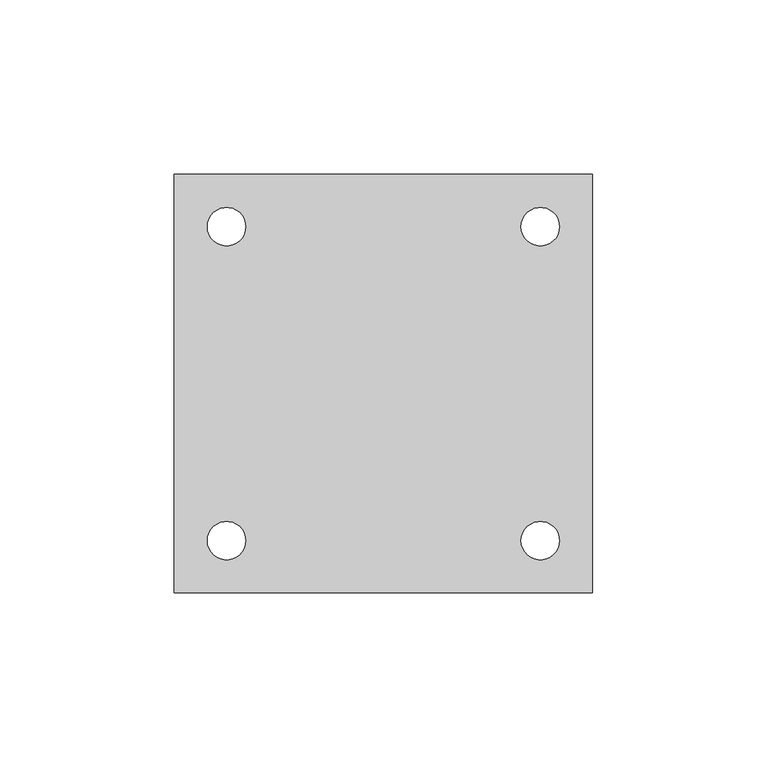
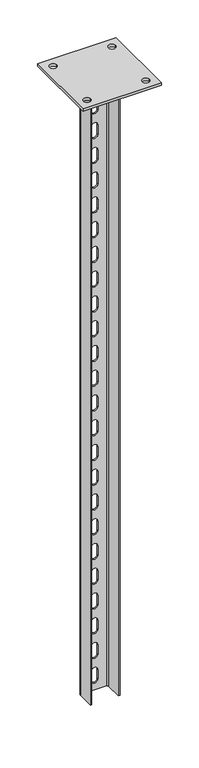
"""IFC4 building model written with IfcOpenShell, lengths in millimetres: proxy geometry, КМ Профиль_Стойка потолочная усиленная PSTU : PSTU1000."""

from ifc_helpers import new_model, si_unit, point, frame, frame_2d, origin, place, context, project, spatial, polyline, circle_curve, trimmed, segment, composite_curve, outline, extrude, source, transform, mapped, element, save
from ifc_brep_helpers import plane_surface, cylinder_surface, revolved_surface, advanced_brep


def generic_models_558c0930(model_context):
    return source(origin(), model_context, "Body", "SolidModel", [
        advanced_brep(
        [(22.5, -15.0, -4.0), (22.5, 11.0, -4.0), (18.5, 15.0, -4.0), (-18.5, 15.0, -4.0), (-22.5, 11.0, -4.0), (-22.5, -15.0, -4.0), (-20.5, -15.0, -4.0), (-20.5, 11.0, -4.0), (-18.5, 13.0, -4.0), (18.5, 13.0, -4.0), (20.5, 11.0, -4.0), (20.5, -15.0, -4.0), (22.5, 11.0, -1004.0), (22.5, -15.0, -1004.0), (20.5, -15.0, -1004.0), (20.5, 11.0, -1004.0), (18.5, 13.0, -1004.0), (-18.5, 13.0, -1004.0), (-20.5, 11.0, -1004.0), (-20.5, -15.0, -1004.0), (-22.5, -15.0, -1004.0), (-22.5, 11.0, -1004.0), (-18.5, 15.0, -1004.0), (18.5, 15.0, -1004.0), (-5.0, 15.0, -53.0), (-5.0, 15.0, -68.0), (5.0, 15.0, -68.0), (5.0, 15.0, -53.0), (-5.0, 15.0, -93.0), (-5.0, 15.0, -108.0), (5.0, 15.0, -108.0), (5.0, 15.0, -93.0), (-5.0, 15.0, -133.0), (-5.0, 15.0, -148.0), (5.0, 15.0, -148.0), (5.0, 15.0, -133.0), (-5.0, 15.0, -173.0), (-5.0, 15.0, -188.0), (5.0, 15.0, -188.0), (5.0, 15.0, -173.0), (-5.0, 15.0, -213.0), (-5.0, 15.0, -228.0), (5.0, 15.0, -228.0), (5.0, 15.0, -213.0), (-5.0, 15.0, -253.0), (-5.0, 15.0, -268.0), (5.0, 15.0, -268.0), (5.0, 15.0, -253.0), (-5.0, 15.0, -293.0), (-5.0, 15.0, -308.0), (5.0, 15.0, -308.0), (5.0, 15.0, -293.0), (-5.0, 15.0, -333.0), (-5.0, 15.0, -348.0), (5.0, 15.0, -348.0), (5.0, 15.0, -333.0), (-5.0, 15.0, -373.0), (-5.0, 15.0, -388.0), (5.0, 15.0, -388.0), (5.0, 15.0, -373.0), (-5.0, 15.0, -413.0), (-5.0, 15.0, -428.0), (5.0, 15.0, -428.0), (5.0, 15.0, -413.0), (-5.0, 15.0, -453.0), (-5.0, 15.0, -468.0), (5.0, 15.0, -468.0), (5.0, 15.0, -453.0), (-5.0, 15.0, -493.0), (-5.0, 15.0, -508.0), (5.0, 15.0, -508.0), (5.0, 15.0, -493.0), (-5.0, 15.0, -533.0), (-5.0, 15.0, -548.0), (5.0, 15.0, -548.0), (5.0, 15.0, -533.0), (-5.0, 15.0, -573.0), (-5.0, 15.0, -588.0), (5.0, 15.0, -588.0), (5.0, 15.0, -573.0), (-5.0, 15.0, -613.0), (-5.0, 15.0, -628.0), (5.0, 15.0, -628.0), (5.0, 15.0, -613.0), (-5.0, 15.0, -653.0), (-5.0, 15.0, -668.0), (5.0, 15.0, -668.0), (5.0, 15.0, -653.0), (-5.0, 15.0, -693.0), (-5.0, 15.0, -708.0), (5.0, 15.0, -708.0), (5.0, 15.0, -693.0), (-5.0, 15.0, -733.0), (-5.0, 15.0, -748.0), (5.0, 15.0, -748.0), (5.0, 15.0, -733.0), (-5.0, 15.0, -773.0), (-5.0, 15.0, -788.0), (5.0, 15.0, -788.0), (5.0, 15.0, -773.0), (-5.0, 15.0, -813.0), (-5.0, 15.0, -828.0), (5.0, 15.0, -828.0), (5.0, 15.0, -813.0), (-5.0, 15.0, -853.0), (-5.0, 15.0, -868.0), (5.0, 15.0, -868.0), (5.0, 15.0, -853.0), (-5.0, 15.0, -893.0), (-5.0, 15.0, -908.0), (5.0, 15.0, -908.0), (5.0, 15.0, -893.0), (-5.0, 15.0, -933.0), (-5.0, 15.0, -948.0), (5.0, 15.0, -948.0), (5.0, 15.0, -933.0), (-5.0, 15.0, -973.0), (-5.0, 15.0, -988.0), (5.0, 15.0, -988.0), (5.0, 15.0, -973.0), (-5.0, 15.0, -13.0), (-5.0, 15.0, -28.0), (5.0, 15.0, -28.0), (5.0, 15.0, -13.0), (-5.0, 13.0, -68.0), (-5.0, 13.0, -53.0), (5.0, 13.0, -53.0), (5.0, 13.0, -68.0), (-5.0, 13.0, -108.0), (-5.0, 13.0, -93.0), (5.0, 13.0, -93.0), (5.0, 13.0, -108.0), (-5.0, 13.0, -148.0), (-5.0, 13.0, -133.0), (5.0, 13.0, -133.0), (5.0, 13.0, -148.0), (-5.0, 13.0, -188.0), (-5.0, 13.0, -173.0), (5.0, 13.0, -173.0), (5.0, 13.0, -188.0), (-5.0, 13.0, -228.0), (-5.0, 13.0, -213.0), (5.0, 13.0, -213.0), (5.0, 13.0, -228.0), (-5.0, 13.0, -268.0), (-5.0, 13.0, -253.0), (5.0, 13.0, -253.0), (5.0, 13.0, -268.0), (-5.0, 13.0, -308.0), (-5.0, 13.0, -293.0), (5.0, 13.0, -293.0), (5.0, 13.0, -308.0), (-5.0, 13.0, -348.0), (-5.0, 13.0, -333.0), (5.0, 13.0, -333.0), (5.0, 13.0, -348.0), (-5.0, 13.0, -388.0), (-5.0, 13.0, -373.0), (5.0, 13.0, -373.0), (5.0, 13.0, -388.0), (-5.0, 13.0, -428.0), (-5.0, 13.0, -413.0), (5.0, 13.0, -413.0), (5.0, 13.0, -428.0), (-5.0, 13.0, -468.0), (-5.0, 13.0, -453.0), (5.0, 13.0, -453.0), (5.0, 13.0, -468.0), (-5.0, 13.0, -508.0), (-5.0, 13.0, -493.0), (5.0, 13.0, -493.0), (5.0, 13.0, -508.0), (-5.0, 13.0, -548.0), (-5.0, 13.0, -533.0), (5.0, 13.0, -533.0), (5.0, 13.0, -548.0), (-5.0, 13.0, -588.0), (-5.0, 13.0, -573.0), (5.0, 13.0, -573.0), (5.0, 13.0, -588.0), (-5.0, 13.0, -628.0), (-5.0, 13.0, -613.0), (5.0, 13.0, -613.0), (5.0, 13.0, -628.0), (-5.0, 13.0, -668.0), (-5.0, 13.0, -653.0), (5.0, 13.0, -653.0), (5.0, 13.0, -668.0), (-5.0, 13.0, -708.0), (-5.0, 13.0, -693.0), (5.0, 13.0, -693.0), (5.0, 13.0, -708.0), (-5.0, 13.0, -748.0), (-5.0, 13.0, -733.0), (5.0, 13.0, -733.0), (5.0, 13.0, -748.0), (-5.0, 13.0, -788.0), (-5.0, 13.0, -773.0), (5.0, 13.0, -773.0), (5.0, 13.0, -788.0), (-5.0, 13.0, -828.0), (-5.0, 13.0, -813.0), (5.0, 13.0, -813.0), (5.0, 13.0, -828.0), (-5.0, 13.0, -868.0), (-5.0, 13.0, -853.0), (5.0, 13.0, -853.0), (5.0, 13.0, -868.0), (-5.0, 13.0, -908.0), (-5.0, 13.0, -893.0), (5.0, 13.0, -893.0), (5.0, 13.0, -908.0), (-5.0, 13.0, -948.0), (-5.0, 13.0, -933.0), (5.0, 13.0, -933.0), (5.0, 13.0, -948.0), (-5.0, 13.0, -988.0), (-5.0, 13.0, -973.0), (5.0, 13.0, -973.0), (5.0, 13.0, -988.0), (-5.0, 13.0, -28.0), (-5.0, 13.0, -13.0), (5.0, 13.0, -13.0), (5.0, 13.0, -28.0)],
        [
            (0, 1),
            (1, 2, circle_curve(frame((18.5, 11.0, -4.0), z_axis=(0.0, 0.0, 1.0), x_axis=(1.0, 0.0, 0.0)), 4.0)),
            (2, 3),
            (3, 4, circle_curve(frame((-18.5, 11.0, -4.0), z_axis=(0.0, 0.0, 1.0), x_axis=(1.0, 0.0, 0.0)), 4.0)),
            (4, 5),
            (5, 6),
            (6, 7),
            (7, 8, circle_curve(frame((-18.5, 11.0, -4.0), z_axis=(0.0, 0.0, -1.0), x_axis=(1.0, 0.0, 0.0)), 2.0)),
            (8, 9),
            (9, 10, circle_curve(frame((18.5, 11.0, -4.0), z_axis=(0.0, 0.0, -1.0), x_axis=(1.0, 0.0, 0.0)), 2.0)),
            (10, 11),
            (11, 0),
            (12, 13),
            (13, 14),
            (14, 15),
            (15, 16, circle_curve(frame((18.5, 11.0, -1004.0), z_axis=(0.0, 0.0, 1.0), x_axis=(1.0, 0.0, 0.0)), 2.0)),
            (16, 17),
            (17, 18, circle_curve(frame((-18.5, 11.0, -1004.0), z_axis=(0.0, 0.0, 1.0), x_axis=(1.0, 0.0, 0.0)), 2.0)),
            (18, 19),
            (19, 20),
            (20, 21),
            (21, 22, circle_curve(frame((-18.5, 11.0, -1004.0), z_axis=(0.0, 0.0, -1.0), x_axis=(1.0, 0.0, 0.0)), 4.0)),
            (22, 23),
            (23, 12, circle_curve(frame((18.5, 11.0, -1004.0), z_axis=(0.0, 0.0, -1.0), x_axis=(1.0, 0.0, 0.0)), 4.0)),
            (0, 13),
            (12, 1),
            (23, 2),
            (22, 3),
            (24, 25),
            (25, 26, circle_curve(frame((0.0, 15.0, -68.0), z_axis=(0.0, -1.0, 0.0), x_axis=(0.0, 0.0, -1.0)), 5.0)),
            (26, 27),
            (27, 24, circle_curve(frame((0.0, 15.0, -53.0), z_axis=(0.0, -1.0, 0.0), x_axis=(0.0, 0.0, -1.0)), 5.0)),
            (28, 29),
            (29, 30, circle_curve(frame((0.0, 15.0, -108.0), z_axis=(0.0, -1.0, 0.0), x_axis=(0.0, 0.0, -1.0)), 5.0)),
            (30, 31),
            (31, 28, circle_curve(frame((0.0, 15.0, -93.0), z_axis=(0.0, -1.0, 0.0), x_axis=(0.0, 0.0, -1.0)), 5.0)),
            (32, 33),
            (33, 34, circle_curve(frame((0.0, 15.0, -148.0), z_axis=(0.0, -1.0, 0.0), x_axis=(0.0, 0.0, -1.0)), 5.0)),
            (34, 35),
            (35, 32, circle_curve(frame((0.0, 15.0, -133.0), z_axis=(0.0, -1.0, 0.0), x_axis=(0.0, 0.0, -1.0)), 5.0)),
            (36, 37),
            (37, 38, circle_curve(frame((0.0, 15.0, -188.0), z_axis=(0.0, -1.0, 0.0), x_axis=(0.0, 0.0, -1.0)), 5.0)),
            (38, 39),
            (39, 36, circle_curve(frame((0.0, 15.0, -173.0), z_axis=(0.0, -1.0, 0.0), x_axis=(0.0, 0.0, -1.0)), 5.0)),
            (40, 41),
            (41, 42, circle_curve(frame((0.0, 15.0, -228.0), z_axis=(0.0, -1.0, 0.0), x_axis=(0.0, 0.0, -1.0)), 5.0)),
            (42, 43),
            (43, 40, circle_curve(frame((0.0, 15.0, -213.0), z_axis=(0.0, -1.0, 0.0), x_axis=(0.0, 0.0, -1.0)), 5.0)),
            (44, 45),
            (45, 46, circle_curve(frame((0.0, 15.0, -268.0), z_axis=(0.0, -1.0, 0.0), x_axis=(0.0, 0.0, -1.0)), 5.0)),
            (46, 47),
            (47, 44, circle_curve(frame((0.0, 15.0, -253.0), z_axis=(0.0, -1.0, 0.0), x_axis=(0.0, 0.0, -1.0)), 5.0)),
            (48, 49),
            (49, 50, circle_curve(frame((0.0, 15.0, -308.0), z_axis=(0.0, -1.0, 0.0), x_axis=(0.0, 0.0, -1.0)), 5.0)),
            (50, 51),
            (51, 48, circle_curve(frame((0.0, 15.0, -293.0), z_axis=(0.0, -1.0, 0.0), x_axis=(0.0, 0.0, -1.0)), 5.0)),
            (52, 53),
            (53, 54, circle_curve(frame((0.0, 15.0, -348.0), z_axis=(0.0, -1.0, 0.0), x_axis=(0.0, 0.0, -1.0)), 5.0)),
            (54, 55),
            (55, 52, circle_curve(frame((0.0, 15.0, -333.0), z_axis=(0.0, -1.0, 0.0), x_axis=(0.0, 0.0, -1.0)), 5.0)),
            (56, 57),
            (57, 58, circle_curve(frame((0.0, 15.0, -388.0), z_axis=(0.0, -1.0, 0.0), x_axis=(0.0, 0.0, -1.0)), 5.0)),
            (58, 59),
            (59, 56, circle_curve(frame((0.0, 15.0, -373.0), z_axis=(0.0, -1.0, 0.0), x_axis=(0.0, 0.0, -1.0)), 5.0)),
            (60, 61),
            (61, 62, circle_curve(frame((0.0, 15.0, -428.0), z_axis=(0.0, -1.0, 0.0), x_axis=(0.0, 0.0, -1.0)), 5.0)),
            (62, 63),
            (63, 60, circle_curve(frame((0.0, 15.0, -413.0), z_axis=(0.0, -1.0, 0.0), x_axis=(0.0, 0.0, -1.0)), 5.0)),
            (64, 65),
            (65, 66, circle_curve(frame((0.0, 15.0, -468.0), z_axis=(0.0, -1.0, 0.0), x_axis=(0.0, 0.0, -1.0)), 5.0)),
            (66, 67),
            (67, 64, circle_curve(frame((0.0, 15.0, -453.0), z_axis=(0.0, -1.0, 0.0), x_axis=(0.0, 0.0, -1.0)), 5.0)),
            (68, 69),
            (69, 70, circle_curve(frame((0.0, 15.0, -508.0), z_axis=(0.0, -1.0, 0.0), x_axis=(0.0, 0.0, -1.0)), 5.0)),
            (70, 71),
            (71, 68, circle_curve(frame((0.0, 15.0, -493.0), z_axis=(0.0, -1.0, 0.0), x_axis=(0.0, 0.0, -1.0)), 5.0)),
            (72, 73),
            (73, 74, circle_curve(frame((0.0, 15.0, -548.0), z_axis=(0.0, -1.0, 0.0), x_axis=(0.0, 0.0, -1.0)), 5.0)),
            (74, 75),
            (75, 72, circle_curve(frame((0.0, 15.0, -533.0), z_axis=(0.0, -1.0, 0.0), x_axis=(0.0, 0.0, -1.0)), 5.0)),
            (76, 77),
            (77, 78, circle_curve(frame((0.0, 15.0, -588.0), z_axis=(0.0, -1.0, 0.0), x_axis=(0.0, 0.0, -1.0)), 5.0)),
            (78, 79),
            (79, 76, circle_curve(frame((0.0, 15.0, -573.0), z_axis=(0.0, -1.0, 0.0), x_axis=(0.0, 0.0, -1.0)), 5.0)),
            (80, 81),
            (81, 82, circle_curve(frame((0.0, 15.0, -628.0), z_axis=(0.0, -1.0, 0.0), x_axis=(0.0, 0.0, -1.0)), 5.0)),
            (82, 83),
            (83, 80, circle_curve(frame((0.0, 15.0, -613.0), z_axis=(0.0, -1.0, 0.0), x_axis=(0.0, 0.0, -1.0)), 5.0)),
            (84, 85),
            (85, 86, circle_curve(frame((0.0, 15.0, -668.0), z_axis=(0.0, -1.0, 0.0), x_axis=(0.0, 0.0, -1.0)), 5.0)),
            (86, 87),
            (87, 84, circle_curve(frame((0.0, 15.0, -653.0), z_axis=(0.0, -1.0, 0.0), x_axis=(0.0, 0.0, -1.0)), 5.0)),
            (88, 89),
            (89, 90, circle_curve(frame((0.0, 15.0, -708.0), z_axis=(0.0, -1.0, 0.0), x_axis=(0.0, 0.0, -1.0)), 5.0)),
            (90, 91),
            (91, 88, circle_curve(frame((0.0, 15.0, -693.0), z_axis=(0.0, -1.0, 0.0), x_axis=(0.0, 0.0, -1.0)), 5.0)),
            (92, 93),
            (93, 94, circle_curve(frame((0.0, 15.0, -748.0), z_axis=(0.0, -1.0, 0.0), x_axis=(0.0, 0.0, -1.0)), 5.0)),
            (94, 95),
            (95, 92, circle_curve(frame((0.0, 15.0, -733.0), z_axis=(0.0, -1.0, 0.0), x_axis=(0.0, 0.0, -1.0)), 5.0)),
            (96, 97),
            (97, 98, circle_curve(frame((0.0, 15.0, -788.0), z_axis=(0.0, -1.0, 0.0), x_axis=(0.0, 0.0, -1.0)), 5.0)),
            (98, 99),
            (99, 96, circle_curve(frame((0.0, 15.0, -773.0), z_axis=(0.0, -1.0, 0.0), x_axis=(0.0, 0.0, -1.0)), 5.0)),
            (100, 101),
            (101, 102, circle_curve(frame((0.0, 15.0, -828.0), z_axis=(0.0, -1.0, 0.0), x_axis=(0.0, 0.0, -1.0)), 5.0)),
            (102, 103),
            (103, 100, circle_curve(frame((0.0, 15.0, -813.0), z_axis=(0.0, -1.0, 0.0), x_axis=(0.0, 0.0, -1.0)), 5.0)),
            (104, 105),
            (105, 106, circle_curve(frame((0.0, 15.0, -868.0), z_axis=(0.0, -1.0, 0.0), x_axis=(0.0, 0.0, -1.0)), 5.0)),
            (106, 107),
            (107, 104, circle_curve(frame((0.0, 15.0, -853.0), z_axis=(0.0, -1.0, 0.0), x_axis=(0.0, 0.0, -1.0)), 5.0)),
            (108, 109),
            (109, 110, circle_curve(frame((0.0, 15.0, -908.0), z_axis=(0.0, -1.0, 0.0), x_axis=(0.0, 0.0, -1.0)), 5.0)),
            (110, 111),
            (111, 108, circle_curve(frame((0.0, 15.0, -893.0), z_axis=(0.0, -1.0, 0.0), x_axis=(0.0, 0.0, -1.0)), 5.0)),
            (112, 113),
            (113, 114, circle_curve(frame((0.0, 15.0, -948.0), z_axis=(0.0, -1.0, 0.0), x_axis=(0.0, 0.0, -1.0)), 5.0)),
            (114, 115),
            (115, 112, circle_curve(frame((0.0, 15.0, -933.0), z_axis=(0.0, -1.0, 0.0), x_axis=(0.0, 0.0, -1.0)), 5.0)),
            (116, 117),
            (117, 118, circle_curve(frame((0.0, 15.0, -988.0), z_axis=(0.0, -1.0, 0.0), x_axis=(0.0, 0.0, -1.0)), 5.0)),
            (118, 119),
            (119, 116, circle_curve(frame((0.0, 15.0, -973.0), z_axis=(0.0, -1.0, 0.0), x_axis=(0.0, 0.0, -1.0)), 5.0)),
            (120, 121),
            (121, 122, circle_curve(frame((0.0, 15.0, -28.0), z_axis=(0.0, -1.0, 0.0), x_axis=(0.0, 0.0, -1.0)), 5.0)),
            (122, 123),
            (123, 120, circle_curve(frame((0.0, 15.0, -13.0), z_axis=(0.0, -1.0, 0.0), x_axis=(0.0, 0.0, -1.0)), 5.0)),
            (21, 4),
            (20, 5),
            (19, 6),
            (18, 7),
            (17, 8),
            (16, 9),
            (124, 125),
            (125, 126, circle_curve(frame((0.0, 13.0, -53.0), z_axis=(0.0, 1.0, 0.0), x_axis=(0.0, 0.0, -1.0)), 5.0)),
            (126, 127),
            (127, 124, circle_curve(frame((0.0, 13.0, -68.0), z_axis=(0.0, 1.0, 0.0), x_axis=(0.0, 0.0, -1.0)), 5.0)),
            (128, 129),
            (129, 130, circle_curve(frame((0.0, 13.0, -93.0), z_axis=(0.0, 1.0, 0.0), x_axis=(0.0, 0.0, -1.0)), 5.0)),
            (130, 131),
            (131, 128, circle_curve(frame((0.0, 13.0, -108.0), z_axis=(0.0, 1.0, 0.0), x_axis=(0.0, 0.0, -1.0)), 5.0)),
            (132, 133),
            (133, 134, circle_curve(frame((0.0, 13.0, -133.0), z_axis=(0.0, 1.0, 0.0), x_axis=(0.0, 0.0, -1.0)), 5.0)),
            (134, 135),
            (135, 132, circle_curve(frame((0.0, 13.0, -148.0), z_axis=(0.0, 1.0, 0.0), x_axis=(0.0, 0.0, -1.0)), 5.0)),
            (136, 137),
            (137, 138, circle_curve(frame((0.0, 13.0, -173.0), z_axis=(0.0, 1.0, 0.0), x_axis=(0.0, 0.0, -1.0)), 5.0)),
            (138, 139),
            (139, 136, circle_curve(frame((0.0, 13.0, -188.0), z_axis=(0.0, 1.0, 0.0), x_axis=(0.0, 0.0, -1.0)), 5.0)),
            (140, 141),
            (141, 142, circle_curve(frame((0.0, 13.0, -213.0), z_axis=(0.0, 1.0, 0.0), x_axis=(0.0, 0.0, -1.0)), 5.0)),
            (142, 143),
            (143, 140, circle_curve(frame((0.0, 13.0, -228.0), z_axis=(0.0, 1.0, 0.0), x_axis=(0.0, 0.0, -1.0)), 5.0)),
            (144, 145),
            (145, 146, circle_curve(frame((0.0, 13.0, -253.0), z_axis=(0.0, 1.0, 0.0), x_axis=(0.0, 0.0, -1.0)), 5.0)),
            (146, 147),
            (147, 144, circle_curve(frame((0.0, 13.0, -268.0), z_axis=(0.0, 1.0, 0.0), x_axis=(0.0, 0.0, -1.0)), 5.0)),
            (148, 149),
            (149, 150, circle_curve(frame((0.0, 13.0, -293.0), z_axis=(0.0, 1.0, 0.0), x_axis=(0.0, 0.0, -1.0)), 5.0)),
            (150, 151),
            (151, 148, circle_curve(frame((0.0, 13.0, -308.0), z_axis=(0.0, 1.0, 0.0), x_axis=(0.0, 0.0, -1.0)), 5.0)),
            (152, 153),
            (153, 154, circle_curve(frame((0.0, 13.0, -333.0), z_axis=(0.0, 1.0, 0.0), x_axis=(0.0, 0.0, -1.0)), 5.0)),
            (154, 155),
            (155, 152, circle_curve(frame((0.0, 13.0, -348.0), z_axis=(0.0, 1.0, 0.0), x_axis=(0.0, 0.0, -1.0)), 5.0)),
            (156, 157),
            (157, 158, circle_curve(frame((0.0, 13.0, -373.0), z_axis=(0.0, 1.0, 0.0), x_axis=(0.0, 0.0, -1.0)), 5.0)),
            (158, 159),
            (159, 156, circle_curve(frame((0.0, 13.0, -388.0), z_axis=(0.0, 1.0, 0.0), x_axis=(0.0, 0.0, -1.0)), 5.0)),
            (160, 161),
            (161, 162, circle_curve(frame((0.0, 13.0, -413.0), z_axis=(0.0, 1.0, 0.0), x_axis=(0.0, 0.0, -1.0)), 5.0)),
            (162, 163),
            (163, 160, circle_curve(frame((0.0, 13.0, -428.0), z_axis=(0.0, 1.0, 0.0), x_axis=(0.0, 0.0, -1.0)), 5.0)),
            (164, 165),
            (165, 166, circle_curve(frame((0.0, 13.0, -453.0), z_axis=(0.0, 1.0, 0.0), x_axis=(0.0, 0.0, -1.0)), 5.0)),
            (166, 167),
            (167, 164, circle_curve(frame((0.0, 13.0, -468.0), z_axis=(0.0, 1.0, 0.0), x_axis=(0.0, 0.0, -1.0)), 5.0)),
            (168, 169),
            (169, 170, circle_curve(frame((0.0, 13.0, -493.0), z_axis=(0.0, 1.0, 0.0), x_axis=(0.0, 0.0, -1.0)), 5.0)),
            (170, 171),
            (171, 168, circle_curve(frame((0.0, 13.0, -508.0), z_axis=(0.0, 1.0, 0.0), x_axis=(0.0, 0.0, -1.0)), 5.0)),
            (172, 173),
            (173, 174, circle_curve(frame((0.0, 13.0, -533.0), z_axis=(0.0, 1.0, 0.0), x_axis=(0.0, 0.0, -1.0)), 5.0)),
            (174, 175),
            (175, 172, circle_curve(frame((0.0, 13.0, -548.0), z_axis=(0.0, 1.0, 0.0), x_axis=(0.0, 0.0, -1.0)), 5.0)),
            (176, 177),
            (177, 178, circle_curve(frame((0.0, 13.0, -573.0), z_axis=(0.0, 1.0, 0.0), x_axis=(0.0, 0.0, -1.0)), 5.0)),
            (178, 179),
            (179, 176, circle_curve(frame((0.0, 13.0, -588.0), z_axis=(0.0, 1.0, 0.0), x_axis=(0.0, 0.0, -1.0)), 5.0)),
            (180, 181),
            (181, 182, circle_curve(frame((0.0, 13.0, -613.0), z_axis=(0.0, 1.0, 0.0), x_axis=(0.0, 0.0, -1.0)), 5.0)),
            (182, 183),
            (183, 180, circle_curve(frame((0.0, 13.0, -628.0), z_axis=(0.0, 1.0, 0.0), x_axis=(0.0, 0.0, -1.0)), 5.0)),
            (184, 185),
            (185, 186, circle_curve(frame((0.0, 13.0, -653.0), z_axis=(0.0, 1.0, 0.0), x_axis=(0.0, 0.0, -1.0)), 5.0)),
            (186, 187),
            (187, 184, circle_curve(frame((0.0, 13.0, -668.0), z_axis=(0.0, 1.0, 0.0), x_axis=(0.0, 0.0, -1.0)), 5.0)),
            (188, 189),
            (189, 190, circle_curve(frame((0.0, 13.0, -693.0), z_axis=(0.0, 1.0, 0.0), x_axis=(0.0, 0.0, -1.0)), 5.0)),
            (190, 191),
            (191, 188, circle_curve(frame((0.0, 13.0, -708.0), z_axis=(0.0, 1.0, 0.0), x_axis=(0.0, 0.0, -1.0)), 5.0)),
            (192, 193),
            (193, 194, circle_curve(frame((0.0, 13.0, -733.0), z_axis=(0.0, 1.0, 0.0), x_axis=(0.0, 0.0, -1.0)), 5.0)),
            (194, 195),
            (195, 192, circle_curve(frame((0.0, 13.0, -748.0), z_axis=(0.0, 1.0, 0.0), x_axis=(0.0, 0.0, -1.0)), 5.0)),
            (196, 197),
            (197, 198, circle_curve(frame((0.0, 13.0, -773.0), z_axis=(0.0, 1.0, 0.0), x_axis=(0.0, 0.0, -1.0)), 5.0)),
            (198, 199),
            (199, 196, circle_curve(frame((0.0, 13.0, -788.0), z_axis=(0.0, 1.0, 0.0), x_axis=(0.0, 0.0, -1.0)), 5.0)),
            (200, 201),
            (201, 202, circle_curve(frame((0.0, 13.0, -813.0), z_axis=(0.0, 1.0, 0.0), x_axis=(0.0, 0.0, -1.0)), 5.0)),
            (202, 203),
            (203, 200, circle_curve(frame((0.0, 13.0, -828.0), z_axis=(0.0, 1.0, 0.0), x_axis=(0.0, 0.0, -1.0)), 5.0)),
            (204, 205),
            (205, 206, circle_curve(frame((0.0, 13.0, -853.0), z_axis=(0.0, 1.0, 0.0), x_axis=(0.0, 0.0, -1.0)), 5.0)),
            (206, 207),
            (207, 204, circle_curve(frame((0.0, 13.0, -868.0), z_axis=(0.0, 1.0, 0.0), x_axis=(0.0, 0.0, -1.0)), 5.0)),
            (208, 209),
            (209, 210, circle_curve(frame((0.0, 13.0, -893.0), z_axis=(0.0, 1.0, 0.0), x_axis=(0.0, 0.0, -1.0)), 5.0)),
            (210, 211),
            (211, 208, circle_curve(frame((0.0, 13.0, -908.0), z_axis=(0.0, 1.0, 0.0), x_axis=(0.0, 0.0, -1.0)), 5.0)),
            (212, 213),
            (213, 214, circle_curve(frame((0.0, 13.0, -933.0), z_axis=(0.0, 1.0, 0.0), x_axis=(0.0, 0.0, -1.0)), 5.0)),
            (214, 215),
            (215, 212, circle_curve(frame((0.0, 13.0, -948.0), z_axis=(0.0, 1.0, 0.0), x_axis=(0.0, 0.0, -1.0)), 5.0)),
            (216, 217),
            (217, 218, circle_curve(frame((0.0, 13.0, -973.0), z_axis=(0.0, 1.0, 0.0), x_axis=(0.0, 0.0, -1.0)), 5.0)),
            (218, 219),
            (219, 216, circle_curve(frame((0.0, 13.0, -988.0), z_axis=(0.0, 1.0, 0.0), x_axis=(0.0, 0.0, -1.0)), 5.0)),
            (220, 221),
            (221, 222, circle_curve(frame((0.0, 13.0, -13.0), z_axis=(0.0, 1.0, 0.0), x_axis=(0.0, 0.0, -1.0)), 5.0)),
            (222, 223),
            (223, 220, circle_curve(frame((0.0, 13.0, -28.0), z_axis=(0.0, 1.0, 0.0), x_axis=(0.0, 0.0, -1.0)), 5.0)),
            (15, 10),
            (14, 11),
            (24, 125),
            (124, 25),
            (27, 126),
            (26, 127),
            (28, 129),
            (128, 29),
            (31, 130),
            (30, 131),
            (32, 133),
            (132, 33),
            (35, 134),
            (34, 135),
            (36, 137),
            (136, 37),
            (39, 138),
            (38, 139),
            (40, 141),
            (140, 41),
            (43, 142),
            (42, 143),
            (44, 145),
            (144, 45),
            (47, 146),
            (46, 147),
            (48, 149),
            (148, 49),
            (51, 150),
            (50, 151),
            (52, 153),
            (152, 53),
            (55, 154),
            (54, 155),
            (56, 157),
            (156, 57),
            (59, 158),
            (58, 159),
            (60, 161),
            (160, 61),
            (63, 162),
            (62, 163),
            (64, 165),
            (164, 65),
            (67, 166),
            (66, 167),
            (68, 169),
            (168, 69),
            (71, 170),
            (70, 171),
            (72, 173),
            (172, 73),
            (75, 174),
            (74, 175),
            (76, 177),
            (176, 77),
            (79, 178),
            (78, 179),
            (80, 181),
            (180, 81),
            (83, 182),
            (82, 183),
            (84, 185),
            (184, 85),
            (87, 186),
            (86, 187),
            (88, 189),
            (188, 89),
            (91, 190),
            (90, 191),
            (92, 193),
            (192, 93),
            (95, 194),
            (94, 195),
            (96, 197),
            (196, 97),
            (99, 198),
            (98, 199),
            (100, 201),
            (200, 101),
            (103, 202),
            (102, 203),
            (104, 205),
            (204, 105),
            (107, 206),
            (106, 207),
            (108, 209),
            (208, 109),
            (111, 210),
            (110, 211),
            (112, 213),
            (212, 113),
            (115, 214),
            (114, 215),
            (116, 217),
            (216, 117),
            (119, 218),
            (118, 219),
            (120, 221),
            (220, 121),
            (123, 222),
            (122, 223),
        ],
        [
            plane_surface(frame((22.5, 11.0, -4.0), z_axis=(0.0, 0.0, 1.0), x_axis=(0.0, 1.0, 0.0))),
            plane_surface(frame((22.5, 11.0, -1004.0), z_axis=(0.0, 0.0, -1.0), x_axis=(0.0, -1.0, 0.0))),
            plane_surface(frame((22.5, -15.0, -4.0), z_axis=(1.0, 0.0, 0.0), x_axis=(0.0, 0.0, -1.0))),
            cylinder_surface(frame((18.5, 11.0, -1004.0), z_axis=(0.0, 0.0, 1.0), x_axis=(1.0, 0.0, 0.0)), 4.0),
            plane_surface(frame((18.5, 15.0, -4.0), z_axis=(0.0, 1.0, 0.0), x_axis=(0.0, 0.0, -1.0))),
            cylinder_surface(frame((-18.5, 11.0, -1004.0), z_axis=(0.0, 0.0, 1.0), x_axis=(1.0, 0.0, 0.0)), 4.0),
            plane_surface(frame((-22.5, 11.0, -4.0), z_axis=(-1.0, 0.0, 0.0), x_axis=(0.0, 0.0, -1.0))),
            plane_surface(frame((-22.5, -15.0, -4.0), z_axis=(0.0, -1.0, 0.0), x_axis=(0.0, 0.0, -1.0))),
            plane_surface(frame((-20.5, -15.0, -4.0), z_axis=(1.0, 0.0, 0.0), x_axis=(0.0, 0.0, -1.0))),
            revolved_surface(polyline([(-16.5, 11.0, -1004.0), (-16.5, 11.0, -4.0)]), (-18.5, 11.0, -1004.0), (0.0, 0.0, -1.0)),
            plane_surface(frame((-18.5, 13.0, -4.0), z_axis=(0.0, -1.0, 0.0), x_axis=(0.0, 0.0, -1.0))),
            revolved_surface(polyline([(20.5, 11.0, -1004.0), (20.5, 11.0, -4.0)]), (18.5, 11.0, -1004.0), (0.0, 0.0, -1.0)),
            plane_surface(frame((20.5, 11.0, -4.0), z_axis=(-1.0, 0.0, 0.0), x_axis=(0.0, 0.0, -1.0))),
            plane_surface(frame((20.5, -15.0, -4.0), z_axis=(0.0, -1.0, 0.0), x_axis=(0.0, 0.0, -1.0))),
            plane_surface(frame((-5.0, 15.0, -68.0), z_axis=(1.0, 0.0, 0.0), x_axis=(0.0, -1.0, 0.0))),
            revolved_surface(polyline([(0.0, 15.0, -58.0), (0.0, 13.0, -58.0)]), (0.0, 13.0, -53.0), (0.0, 1.0, 0.0)),
            plane_surface(frame((5.0, 15.0, -53.0), z_axis=(-1.0, 0.0, 0.0), x_axis=(0.0, -1.0, 0.0))),
            revolved_surface(polyline([(0.0, 15.0, -73.0), (0.0, 13.0, -73.0)]), (0.0, 13.0, -68.0), (0.0, 1.0, 0.0)),
            plane_surface(frame((-5.0, 15.0, -108.0), z_axis=(1.0, 0.0, 0.0), x_axis=(0.0, -1.0, 0.0))),
            revolved_surface(polyline([(0.0, 15.0, -98.0), (0.0, 13.0, -98.0)]), (0.0, 13.0, -93.0), (0.0, 1.0, 0.0)),
            plane_surface(frame((5.0, 15.0, -93.0), z_axis=(-1.0, 0.0, 0.0), x_axis=(0.0, -1.0, 0.0))),
            revolved_surface(polyline([(0.0, 15.0, -113.0), (0.0, 13.0, -113.0)]), (0.0, 13.0, -108.0), (0.0, 1.0, 0.0)),
            plane_surface(frame((-5.0, 15.0, -148.0), z_axis=(1.0, 0.0, 0.0), x_axis=(0.0, -1.0, 0.0))),
            revolved_surface(polyline([(0.0, 15.0, -138.0), (0.0, 13.0, -138.0)]), (0.0, 13.0, -133.0), (0.0, 1.0, 0.0)),
            plane_surface(frame((5.0, 15.0, -133.0), z_axis=(-1.0, 0.0, 0.0), x_axis=(0.0, -1.0, 0.0))),
            revolved_surface(polyline([(0.0, 15.0, -153.0), (0.0, 13.0, -153.0)]), (0.0, 13.0, -148.0), (0.0, 1.0, 0.0)),
            plane_surface(frame((-5.0, 15.0, -188.0), z_axis=(1.0, 0.0, 0.0), x_axis=(0.0, -1.0, 0.0))),
            revolved_surface(polyline([(0.0, 15.0, -178.0), (0.0, 13.0, -178.0)]), (0.0, 13.0, -173.0), (0.0, 1.0, 0.0)),
            plane_surface(frame((5.0, 15.0, -173.0), z_axis=(-1.0, 0.0, 0.0), x_axis=(0.0, -1.0, 0.0))),
            revolved_surface(polyline([(0.0, 15.0, -193.0), (0.0, 13.0, -193.0)]), (0.0, 13.0, -188.0), (0.0, 1.0, 0.0)),
            plane_surface(frame((-5.0, 15.0, -228.0), z_axis=(1.0, 0.0, 0.0), x_axis=(0.0, -1.0, 0.0))),
            revolved_surface(polyline([(0.0, 15.0, -218.0), (0.0, 13.0, -218.0)]), (0.0, 13.0, -213.0), (0.0, 1.0, 0.0)),
            plane_surface(frame((5.0, 15.0, -213.0), z_axis=(-1.0, 0.0, 0.0), x_axis=(0.0, -1.0, 0.0))),
            revolved_surface(polyline([(0.0, 15.0, -233.0), (0.0, 13.0, -233.0)]), (0.0, 13.0, -228.0), (0.0, 1.0, 0.0)),
            plane_surface(frame((-5.0, 15.0, -268.0), z_axis=(1.0, 0.0, 0.0), x_axis=(0.0, -1.0, 0.0))),
            revolved_surface(polyline([(0.0, 15.0, -258.0), (0.0, 13.0, -258.0)]), (0.0, 13.0, -253.0), (0.0, 1.0, 0.0)),
            plane_surface(frame((5.0, 15.0, -253.0), z_axis=(-1.0, 0.0, 0.0), x_axis=(0.0, -1.0, 0.0))),
            revolved_surface(polyline([(0.0, 15.0, -273.0), (0.0, 13.0, -273.0)]), (0.0, 13.0, -268.0), (0.0, 1.0, 0.0)),
            plane_surface(frame((-5.0, 15.0, -308.0), z_axis=(1.0, 0.0, 0.0), x_axis=(0.0, -1.0, 0.0))),
            revolved_surface(polyline([(0.0, 15.0, -298.0), (0.0, 13.0, -298.0)]), (0.0, 13.0, -293.0), (0.0, 1.0, 0.0)),
            plane_surface(frame((5.0, 15.0, -293.0), z_axis=(-1.0, 0.0, 0.0), x_axis=(0.0, -1.0, 0.0))),
            revolved_surface(polyline([(0.0, 15.0, -313.0), (0.0, 13.0, -313.0)]), (0.0, 13.0, -308.0), (0.0, 1.0, 0.0)),
            plane_surface(frame((-5.0, 15.0, -348.0), z_axis=(1.0, 0.0, 0.0), x_axis=(0.0, -1.0, 0.0))),
            revolved_surface(polyline([(0.0, 15.0, -338.0), (0.0, 13.0, -338.0)]), (0.0, 13.0, -333.0), (0.0, 1.0, 0.0)),
            plane_surface(frame((5.0, 15.0, -333.0), z_axis=(-1.0, 0.0, 0.0), x_axis=(0.0, -1.0, 0.0))),
            revolved_surface(polyline([(0.0, 15.0, -353.0), (0.0, 13.0, -353.0)]), (0.0, 13.0, -348.0), (0.0, 1.0, 0.0)),
            plane_surface(frame((-5.0, 15.0, -388.0), z_axis=(1.0, 0.0, 0.0), x_axis=(0.0, -1.0, 0.0))),
            revolved_surface(polyline([(0.0, 15.0, -378.0), (0.0, 13.0, -378.0)]), (0.0, 13.0, -373.0), (0.0, 1.0, 0.0)),
            plane_surface(frame((5.0, 15.0, -373.0), z_axis=(-1.0, 0.0, 0.0), x_axis=(0.0, -1.0, 0.0))),
            revolved_surface(polyline([(0.0, 15.0, -393.0), (0.0, 13.0, -393.0)]), (0.0, 13.0, -388.0), (0.0, 1.0, 0.0)),
            plane_surface(frame((-5.0, 15.0, -428.0), z_axis=(1.0, 0.0, 0.0), x_axis=(0.0, -1.0, 0.0))),
            revolved_surface(polyline([(0.0, 15.0, -418.0), (0.0, 13.0, -418.0)]), (0.0, 13.0, -413.0), (0.0, 1.0, 0.0)),
            plane_surface(frame((5.0, 15.0, -413.0), z_axis=(-1.0, 0.0, 0.0), x_axis=(0.0, -1.0, 0.0))),
            revolved_surface(polyline([(0.0, 15.0, -433.0), (0.0, 13.0, -433.0)]), (0.0, 13.0, -428.0), (0.0, 1.0, 0.0)),
            plane_surface(frame((-5.0, 15.0, -468.0), z_axis=(1.0, 0.0, 0.0), x_axis=(0.0, -1.0, 0.0))),
            revolved_surface(polyline([(0.0, 15.0, -458.0), (0.0, 13.0, -458.0)]), (0.0, 13.0, -453.0), (0.0, 1.0, 0.0)),
            plane_surface(frame((5.0, 15.0, -453.0), z_axis=(-1.0, 0.0, 0.0), x_axis=(0.0, -1.0, 0.0))),
            revolved_surface(polyline([(0.0, 15.0, -473.0), (0.0, 13.0, -473.0)]), (0.0, 13.0, -468.0), (0.0, 1.0, 0.0)),
            plane_surface(frame((-5.0, 15.0, -508.0), z_axis=(1.0, 0.0, 0.0), x_axis=(0.0, -1.0, 0.0))),
            revolved_surface(polyline([(0.0, 15.0, -498.0), (0.0, 13.0, -498.0)]), (0.0, 13.0, -493.0), (0.0, 1.0, 0.0)),
            plane_surface(frame((5.0, 15.0, -493.0), z_axis=(-1.0, 0.0, 0.0), x_axis=(0.0, -1.0, 0.0))),
            revolved_surface(polyline([(0.0, 15.0, -513.0), (0.0, 13.0, -513.0)]), (0.0, 13.0, -508.0), (0.0, 1.0, 0.0)),
            plane_surface(frame((-5.0, 15.0, -548.0), z_axis=(1.0, 0.0, 0.0), x_axis=(0.0, -1.0, 0.0))),
            revolved_surface(polyline([(0.0, 15.0, -538.0), (0.0, 13.0, -538.0)]), (0.0, 13.0, -533.0), (0.0, 1.0, 0.0)),
            plane_surface(frame((5.0, 15.0, -533.0), z_axis=(-1.0, 0.0, 0.0), x_axis=(0.0, -1.0, 0.0))),
            revolved_surface(polyline([(0.0, 15.0, -553.0), (0.0, 13.0, -553.0)]), (0.0, 13.0, -548.0), (0.0, 1.0, 0.0)),
            plane_surface(frame((-5.0, 15.0, -588.0), z_axis=(1.0, 0.0, 0.0), x_axis=(0.0, -1.0, 0.0))),
            revolved_surface(polyline([(0.0, 15.0, -578.0), (0.0, 13.0, -578.0)]), (0.0, 13.0, -573.0), (0.0, 1.0, 0.0)),
            plane_surface(frame((5.0, 15.0, -573.0), z_axis=(-1.0, 0.0, 0.0), x_axis=(0.0, -1.0, 0.0))),
            revolved_surface(polyline([(0.0, 15.0, -593.0), (0.0, 13.0, -593.0)]), (0.0, 13.0, -588.0), (0.0, 1.0, 0.0)),
            plane_surface(frame((-5.0, 15.0, -628.0), z_axis=(1.0, 0.0, 0.0), x_axis=(0.0, -1.0, 0.0))),
            revolved_surface(polyline([(0.0, 15.0, -618.0), (0.0, 13.0, -618.0)]), (0.0, 13.0, -613.0), (0.0, 1.0, 0.0)),
            plane_surface(frame((5.0, 15.0, -613.0), z_axis=(-1.0, 0.0, 0.0), x_axis=(0.0, -1.0, 0.0))),
            revolved_surface(polyline([(0.0, 15.0, -633.0), (0.0, 13.0, -633.0)]), (0.0, 13.0, -628.0), (0.0, 1.0, 0.0)),
            plane_surface(frame((-5.0, 15.0, -668.0), z_axis=(1.0, 0.0, 0.0), x_axis=(0.0, -1.0, 0.0))),
            revolved_surface(polyline([(0.0, 15.0, -658.0), (0.0, 13.0, -658.0)]), (0.0, 13.0, -653.0), (0.0, 1.0, 0.0)),
            plane_surface(frame((5.0, 15.0, -653.0), z_axis=(-1.0, 0.0, 0.0), x_axis=(0.0, -1.0, 0.0))),
            revolved_surface(polyline([(0.0, 15.0, -673.0), (0.0, 13.0, -673.0)]), (0.0, 13.0, -668.0), (0.0, 1.0, 0.0)),
            plane_surface(frame((-5.0, 15.0, -708.0), z_axis=(1.0, 0.0, 0.0), x_axis=(0.0, -1.0, 0.0))),
            revolved_surface(polyline([(0.0, 15.0, -698.0), (0.0, 13.0, -698.0)]), (0.0, 13.0, -693.0), (0.0, 1.0, 0.0)),
            plane_surface(frame((5.0, 15.0, -693.0), z_axis=(-1.0, 0.0, 0.0), x_axis=(0.0, -1.0, 0.0))),
            revolved_surface(polyline([(0.0, 15.0, -713.0), (0.0, 13.0, -713.0)]), (0.0, 13.0, -708.0), (0.0, 1.0, 0.0)),
            plane_surface(frame((-5.0, 15.0, -748.0), z_axis=(1.0, 0.0, 0.0), x_axis=(0.0, -1.0, 0.0))),
            revolved_surface(polyline([(0.0, 15.0, -738.0), (0.0, 13.0, -738.0)]), (0.0, 13.0, -733.0), (0.0, 1.0, 0.0)),
            plane_surface(frame((5.0, 15.0, -733.0), z_axis=(-1.0, 0.0, 0.0), x_axis=(0.0, -1.0, 0.0))),
            revolved_surface(polyline([(0.0, 15.0, -753.0), (0.0, 13.0, -753.0)]), (0.0, 13.0, -748.0), (0.0, 1.0, 0.0)),
            plane_surface(frame((-5.0, 15.0, -788.0), z_axis=(1.0, 0.0, 0.0), x_axis=(0.0, -1.0, 0.0))),
            revolved_surface(polyline([(0.0, 15.0, -778.0), (0.0, 13.0, -778.0)]), (0.0, 13.0, -773.0), (0.0, 1.0, 0.0)),
            plane_surface(frame((5.0, 15.0, -773.0), z_axis=(-1.0, 0.0, 0.0), x_axis=(0.0, -1.0, 0.0))),
            revolved_surface(polyline([(0.0, 15.0, -793.0), (0.0, 13.0, -793.0)]), (0.0, 13.0, -788.0), (0.0, 1.0, 0.0)),
            plane_surface(frame((-5.0, 15.0, -828.0), z_axis=(1.0, 0.0, 0.0), x_axis=(0.0, -1.0, 0.0))),
            revolved_surface(polyline([(0.0, 15.0, -818.0), (0.0, 13.0, -818.0)]), (0.0, 13.0, -813.0), (0.0, 1.0, 0.0)),
            plane_surface(frame((5.0, 15.0, -813.0), z_axis=(-1.0, 0.0, 0.0), x_axis=(0.0, -1.0, 0.0))),
            revolved_surface(polyline([(0.0, 15.0, -833.0), (0.0, 13.0, -833.0)]), (0.0, 13.0, -828.0), (0.0, 1.0, 0.0)),
            plane_surface(frame((-5.0, 15.0, -868.0), z_axis=(1.0, 0.0, 0.0), x_axis=(0.0, -1.0, 0.0))),
            revolved_surface(polyline([(0.0, 15.0, -858.0), (0.0, 13.0, -858.0)]), (0.0, 13.0, -853.0), (0.0, 1.0, 0.0)),
            plane_surface(frame((5.0, 15.0, -853.0), z_axis=(-1.0, 0.0, 0.0), x_axis=(0.0, -1.0, 0.0))),
            revolved_surface(polyline([(0.0, 15.0, -873.0), (0.0, 13.0, -873.0)]), (0.0, 13.0, -868.0), (0.0, 1.0, 0.0)),
            plane_surface(frame((-5.0, 15.0, -908.0), z_axis=(1.0, 0.0, 0.0), x_axis=(0.0, -1.0, 0.0))),
            revolved_surface(polyline([(0.0, 15.0, -898.0), (0.0, 13.0, -898.0)]), (0.0, 13.0, -893.0), (0.0, 1.0, 0.0)),
            plane_surface(frame((5.0, 15.0, -893.0), z_axis=(-1.0, 0.0, 0.0), x_axis=(0.0, -1.0, 0.0))),
            revolved_surface(polyline([(0.0, 15.0, -913.0), (0.0, 13.0, -913.0)]), (0.0, 13.0, -908.0), (0.0, 1.0, 0.0)),
            plane_surface(frame((-5.0, 15.0, -948.0), z_axis=(1.0, 0.0, 0.0), x_axis=(0.0, -1.0, 0.0))),
            revolved_surface(polyline([(0.0, 15.0, -938.0), (0.0, 13.0, -938.0)]), (0.0, 13.0, -933.0), (0.0, 1.0, 0.0)),
            plane_surface(frame((5.0, 15.0, -933.0), z_axis=(-1.0, 0.0, 0.0), x_axis=(0.0, -1.0, 0.0))),
            revolved_surface(polyline([(0.0, 15.0, -953.0), (0.0, 13.0, -953.0)]), (0.0, 13.0, -948.0), (0.0, 1.0, 0.0)),
            plane_surface(frame((-5.0, 15.0, -988.0), z_axis=(1.0, 0.0, 0.0), x_axis=(0.0, -1.0, 0.0))),
            revolved_surface(polyline([(0.0, 15.0, -978.0), (0.0, 13.0, -978.0)]), (0.0, 13.0, -973.0), (0.0, 1.0, 0.0)),
            plane_surface(frame((5.0, 15.0, -973.0), z_axis=(-1.0, 0.0, 0.0), x_axis=(0.0, -1.0, 0.0))),
            revolved_surface(polyline([(0.0, 15.0, -993.0), (0.0, 13.0, -993.0)]), (0.0, 13.0, -988.0), (0.0, 1.0, 0.0)),
            plane_surface(frame((-5.0, 15.0, -28.0), z_axis=(1.0, 0.0, 0.0), x_axis=(0.0, -1.0, 0.0))),
            revolved_surface(polyline([(0.0, 15.0, -18.0), (0.0, 13.0, -18.0)]), (0.0, 13.0, -13.0), (0.0, 1.0, 0.0)),
            plane_surface(frame((5.0, 15.0, -13.0), z_axis=(-1.0, 0.0, 0.0), x_axis=(0.0, -1.0, 0.0))),
            revolved_surface(polyline([(0.0, 15.0, -33.0), (0.0, 13.0, -33.0)]), (0.0, 13.0, -28.0), (0.0, 1.0, 0.0)),
        ],
        [
            (0, [[1, 2, 3, 4, 5, 6, 7, 8, 9, 10, 11, 12]]),
            (1, [[13, 14, 15, 16, 17, 18, 19, 20, 21, 22, 23, 24]]),
            (2, [[-1, 25, -13, 26]]),
            (3, [[-2, -26, -24, 27]]),
            (4, [[-3, -27, -23, 28], [29, 30, 31, 32], [33, 34, 35, 36], [37, 38, 39, 40], [41, 42, 43, 44], [45, 46, 47, 48], [49, 50, 51, 52], [53, 54, 55, 56], [57, 58, 59, 60], [61, 62, 63, 64], [65, 66, 67, 68], [69, 70, 71, 72], [73, 74, 75, 76], [77, 78, 79, 80], [81, 82, 83, 84], [85, 86, 87, 88], [89, 90, 91, 92], [93, 94, 95, 96], [97, 98, 99, 100], [101, 102, 103, 104], [105, 106, 107, 108], [109, 110, 111, 112], [113, 114, 115, 116], [117, 118, 119, 120], [121, 122, 123, 124], [125, 126, 127, 128]]),
            (5, [[-4, -28, -22, 129]]),
            (6, [[-5, -129, -21, 130]]),
            (7, [[-6, -130, -20, 131]]),
            (8, [[-7, -131, -19, 132]]),
            (9, [[-8, -132, -18, 133]]),
            (10, [[-9, -133, -17, 134], [135, 136, 137, 138], [139, 140, 141, 142], [143, 144, 145, 146], [147, 148, 149, 150], [151, 152, 153, 154], [155, 156, 157, 158], [159, 160, 161, 162], [163, 164, 165, 166], [167, 168, 169, 170], [171, 172, 173, 174], [175, 176, 177, 178], [179, 180, 181, 182], [183, 184, 185, 186], [187, 188, 189, 190], [191, 192, 193, 194], [195, 196, 197, 198], [199, 200, 201, 202], [203, 204, 205, 206], [207, 208, 209, 210], [211, 212, 213, 214], [215, 216, 217, 218], [219, 220, 221, 222], [223, 224, 225, 226], [227, 228, 229, 230], [231, 232, 233, 234]]),
            (11, [[-10, -134, -16, 235]]),
            (12, [[-11, -235, -15, 236]]),
            (13, [[-12, -236, -14, -25]]),
            (14, [[237, -135, 238, -29]]),
            (15, [[-237, -32, 239, -136]]),
            (16, [[-239, -31, 240, -137]]),
            (17, [[-238, -138, -240, -30]]),
            (18, [[241, -139, 242, -33]]),
            (19, [[-241, -36, 243, -140]]),
            (20, [[-243, -35, 244, -141]]),
            (21, [[-242, -142, -244, -34]]),
            (22, [[245, -143, 246, -37]]),
            (23, [[-245, -40, 247, -144]]),
            (24, [[-247, -39, 248, -145]]),
            (25, [[-246, -146, -248, -38]]),
            (26, [[249, -147, 250, -41]]),
            (27, [[-249, -44, 251, -148]]),
            (28, [[-251, -43, 252, -149]]),
            (29, [[-250, -150, -252, -42]]),
            (30, [[253, -151, 254, -45]]),
            (31, [[-253, -48, 255, -152]]),
            (32, [[-255, -47, 256, -153]]),
            (33, [[-254, -154, -256, -46]]),
            (34, [[257, -155, 258, -49]]),
            (35, [[-257, -52, 259, -156]]),
            (36, [[-259, -51, 260, -157]]),
            (37, [[-258, -158, -260, -50]]),
            (38, [[261, -159, 262, -53]]),
            (39, [[-261, -56, 263, -160]]),
            (40, [[-263, -55, 264, -161]]),
            (41, [[-262, -162, -264, -54]]),
            (42, [[265, -163, 266, -57]]),
            (43, [[-265, -60, 267, -164]]),
            (44, [[-267, -59, 268, -165]]),
            (45, [[-266, -166, -268, -58]]),
            (46, [[269, -167, 270, -61]]),
            (47, [[-269, -64, 271, -168]]),
            (48, [[-271, -63, 272, -169]]),
            (49, [[-270, -170, -272, -62]]),
            (50, [[273, -171, 274, -65]]),
            (51, [[-273, -68, 275, -172]]),
            (52, [[-275, -67, 276, -173]]),
            (53, [[-274, -174, -276, -66]]),
            (54, [[277, -175, 278, -69]]),
            (55, [[-277, -72, 279, -176]]),
            (56, [[-279, -71, 280, -177]]),
            (57, [[-278, -178, -280, -70]]),
            (58, [[281, -179, 282, -73]]),
            (59, [[-281, -76, 283, -180]]),
            (60, [[-283, -75, 284, -181]]),
            (61, [[-282, -182, -284, -74]]),
            (62, [[285, -183, 286, -77]]),
            (63, [[-285, -80, 287, -184]]),
            (64, [[-287, -79, 288, -185]]),
            (65, [[-286, -186, -288, -78]]),
            (66, [[289, -187, 290, -81]]),
            (67, [[-289, -84, 291, -188]]),
            (68, [[-291, -83, 292, -189]]),
            (69, [[-290, -190, -292, -82]]),
            (70, [[293, -191, 294, -85]]),
            (71, [[-293, -88, 295, -192]]),
            (72, [[-295, -87, 296, -193]]),
            (73, [[-294, -194, -296, -86]]),
            (74, [[297, -195, 298, -89]]),
            (75, [[-297, -92, 299, -196]]),
            (76, [[-299, -91, 300, -197]]),
            (77, [[-298, -198, -300, -90]]),
            (78, [[301, -199, 302, -93]]),
            (79, [[-301, -96, 303, -200]]),
            (80, [[-303, -95, 304, -201]]),
            (81, [[-302, -202, -304, -94]]),
            (82, [[305, -203, 306, -97]]),
            (83, [[-305, -100, 307, -204]]),
            (84, [[-307, -99, 308, -205]]),
            (85, [[-306, -206, -308, -98]]),
            (86, [[309, -207, 310, -101]]),
            (87, [[-309, -104, 311, -208]]),
            (88, [[-311, -103, 312, -209]]),
            (89, [[-310, -210, -312, -102]]),
            (90, [[313, -211, 314, -105]]),
            (91, [[-313, -108, 315, -212]]),
            (92, [[-315, -107, 316, -213]]),
            (93, [[-314, -214, -316, -106]]),
            (94, [[317, -215, 318, -109]]),
            (95, [[-317, -112, 319, -216]]),
            (96, [[-319, -111, 320, -217]]),
            (97, [[-318, -218, -320, -110]]),
            (98, [[321, -219, 322, -113]]),
            (99, [[-321, -116, 323, -220]]),
            (100, [[-323, -115, 324, -221]]),
            (101, [[-322, -222, -324, -114]]),
            (102, [[325, -223, 326, -117]]),
            (103, [[-325, -120, 327, -224]]),
            (104, [[-327, -119, 328, -225]]),
            (105, [[-326, -226, -328, -118]]),
            (106, [[329, -227, 330, -121]]),
            (107, [[-329, -124, 331, -228]]),
            (108, [[-331, -123, 332, -229]]),
            (109, [[-330, -230, -332, -122]]),
            (110, [[333, -231, 334, -125]]),
            (111, [[-333, -128, 335, -232]]),
            (112, [[-335, -127, 336, -233]]),
            (113, [[-334, -234, -336, -126]]),
        ],
    ),
        extrude(outline(polyline([(-60.0, 60.0), (60.0, 60.0), (60.0, -60.0), (-60.0, -60.0), (-60.0, 60.0)]), holes=[composite_curve([segment(trimmed(circle_curve(frame_2d((-45.0, 45.0)), 5.5), [point((-50.5, 45.0))], [point((-39.5, 45.0))], True, "CARTESIAN"), True, "CONTINUOUS"), segment(trimmed(circle_curve(frame_2d((-45.0, 45.0)), 5.5), [point((-39.5, 45.0))], [point((-50.5, 45.0))], True, "CARTESIAN"), True, "CONTINUOUS")], self_intersect=False), composite_curve([segment(trimmed(circle_curve(frame_2d((45.0, 45.0)), 5.5), [point((39.5, 45.0))], [point((50.5, 45.0))], True, "CARTESIAN"), True, "CONTINUOUS"), segment(trimmed(circle_curve(frame_2d((45.0, 45.0)), 5.5), [point((50.5, 45.0))], [point((39.5, 45.0))], True, "CARTESIAN"), True, "CONTINUOUS")], self_intersect=False), composite_curve([segment(trimmed(circle_curve(frame_2d((45.0, -45.0)), 5.5), [point((39.5, -45.0))], [point((50.5, -45.0))], True, "CARTESIAN"), True, "CONTINUOUS"), segment(trimmed(circle_curve(frame_2d((45.0, -45.0)), 5.5), [point((50.5, -45.0))], [point((39.5, -45.0))], True, "CARTESIAN"), True, "CONTINUOUS")], self_intersect=False), composite_curve([segment(trimmed(circle_curve(frame_2d((-45.0, -45.0)), 5.5), [point((-50.5, -45.0))], [point((-39.5, -45.0))], True, "CARTESIAN"), True, "CONTINUOUS"), segment(trimmed(circle_curve(frame_2d((-45.0, -45.0)), 5.5), [point((-39.5, -45.0))], [point((-50.5, -45.0))], True, "CARTESIAN"), True, "CONTINUOUS")], self_intersect=False)]), frame((0.0, 0.0, -4.0), z_axis=(0.0, 0.0, 1.0), x_axis=(1.0, 0.0, 0.0)), (0.0, 0.0, 1.0), 4.0),
    ])


if __name__ == "__main__":
    model = new_model("IFC4")
    model_context = context("Model", 3, world=origin())
    ifc_project = project(units=[si_unit("LENGTHUNIT", "METRE", prefix="MILLI")], contexts=[model_context])
    site = spatial("IfcSite", under=ifc_project)
    building = spatial("IfcBuilding", under=site)
    placement = place(None, origin())
    generic_models_shape = generic_models_558c0930(model_context)
    element("IfcBuildingElementProxy", 1, Name="КМ Профиль_Стойка потолочная усиленная PSTU : PSTU1000", ObjectType="КМ Профиль_Стойка потолочная усиленная PSTU : PSTU1000", at=placement, inside=building, context=model_context, shape_type="MappedRepresentation", body=[
        mapped(generic_models_shape, transform((0.0, 0.0, 0.0), x_axis=(1.0, 0.0, 0.0), y_axis=(0.0, 1.0, 0.0), z_axis=(0.0, 0.0, 1.0))),
    ])
    save(model, "model.ifc")
